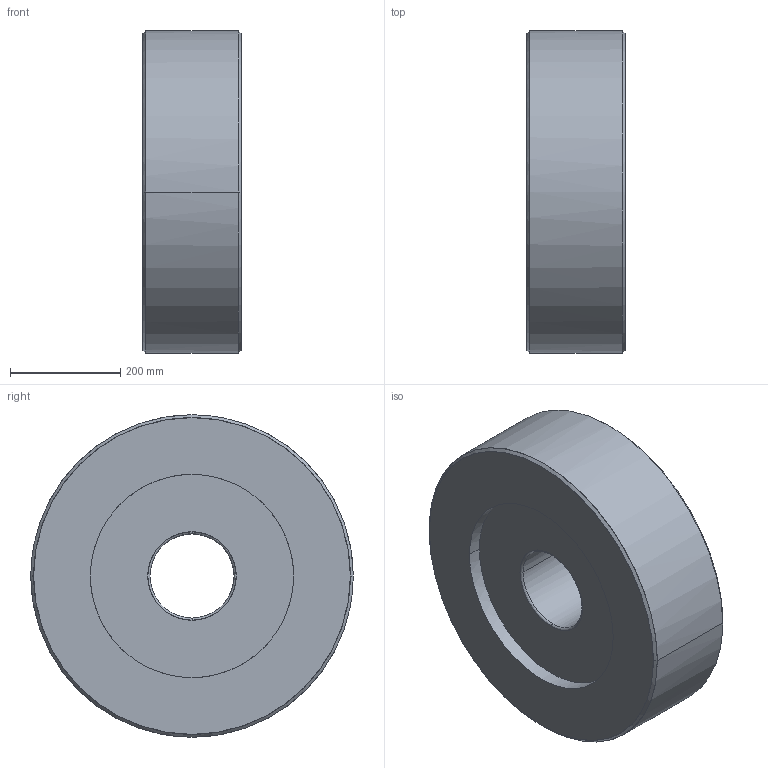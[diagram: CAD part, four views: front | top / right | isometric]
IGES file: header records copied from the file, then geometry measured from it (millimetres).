
Global section: native system: Kubotek KeyCreator; preprocessor: KCM Version 1.1.1442.0; author: KeyCreator User; organization: Self; date: 20170713.055259; units: inch
Bounding box: 177.8 x 584.2 x 584.2 mm (x, y, z)
Surface area: 933243.4 mm2 (no closed solid volume)
Topology: 0 solids, 0 shells, 20 faces, 128 edges, 128 vertices
Faces by surface type: bspline 20
